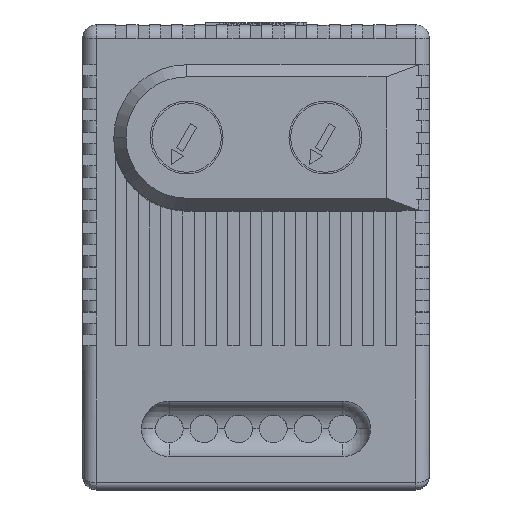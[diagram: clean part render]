
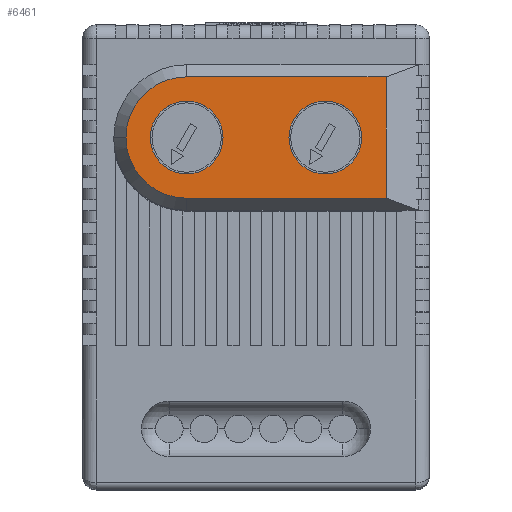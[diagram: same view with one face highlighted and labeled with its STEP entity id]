
A CAD part, top view. The second image highlights one B-rep face of the part: STEP entity #6461.
In plain terms, the highlighted planar face has unit normal (0, 0, 1).
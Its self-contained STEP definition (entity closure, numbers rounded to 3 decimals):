
#78 = CIRCLE ( 'NONE', #12965, 5.25 ) ;
#81 = VECTOR ( 'NONE', #315, 1000. ) ;
#84 = EDGE_LOOP ( 'NONE', ( #19183, #384, #13643, #3356, #12015 ) ) ;
#315 = DIRECTION ( 'NONE',  ( 1., 0., 0. ) ) ;
#384 = ORIENTED_EDGE ( 'NONE', *, *, #6448, .F. ) ;
#586 = FACE_OUTER_BOUND ( 'NONE', #84, .T. ) ;
#1139 = CARTESIAN_POINT ( 'NONE',  ( 43.75, 8.501, 42. ) ) ;
#1729 = PLANE ( 'NONE',  #17325 ) ;
#1800 = DIRECTION ( 'NONE',  ( 0., -1., 0. ) ) ;
#1929 = VECTOR ( 'NONE', #13264, 1000. ) ;
#2039 = EDGE_CURVE ( 'NONE', #3952, #13987, #5466, .T. ) ;
#2088 = EDGE_CURVE ( 'NONE', #6187, #5328, #8255, .T. ) ;
#2646 = EDGE_CURVE ( 'NONE', #11178, #7171, #10498, .T. ) ;
#3356 = ORIENTED_EDGE ( 'NONE', *, *, #2088, .T. ) ;
#3492 = DIRECTION ( 'NONE',  ( 0., 0., 1. ) ) ;
#3721 = VERTEX_POINT ( 'NONE', #19792 ) ;
#3952 = VERTEX_POINT ( 'NONE', #4141 ) ;
#4141 = CARTESIAN_POINT ( 'NONE',  ( 29.75, 17.25, 42. ) ) ;
#4200 = CIRCLE ( 'NONE', #17651, 8.749 ) ;
#4924 = CARTESIAN_POINT ( 'NONE',  ( 43.75, 27.75, 42. ) ) ;
#4990 = CARTESIAN_POINT ( 'NONE',  ( 15., 17.25, 42. ) ) ;
#5327 = CARTESIAN_POINT ( 'NONE',  ( 15., 25.999, 42. ) ) ;
#5328 = VERTEX_POINT ( 'NONE', #17575 ) ;
#5466 = CIRCLE ( 'NONE', #16173, 5.25 ) ;
#5499 = DIRECTION ( 'NONE',  ( 0., 0., 1. ) ) ;
#6187 = VERTEX_POINT ( 'NONE', #5327 ) ;
#6448 = EDGE_CURVE ( 'NONE', #6747, #20317, #12939, .T. ) ;
#6454 = EDGE_CURVE ( 'NONE', #13987, #3952, #78, .T. ) ;
#6461 = ADVANCED_FACE ( 'NONE', ( #8121, #12431, #586 ), #1729, .T. ) ;
#6530 = DIRECTION ( 'NONE',  ( 0., 0., 1. ) ) ;
#6606 = DIRECTION ( 'NONE',  ( 0., 0., 1. ) ) ;
#6747 = VERTEX_POINT ( 'NONE', #18588 ) ;
#6811 = CARTESIAN_POINT ( 'NONE',  ( 15., 25.999, 42. ) ) ;
#7171 = VERTEX_POINT ( 'NONE', #13450 ) ;
#7194 = ORIENTED_EDGE ( 'NONE', *, *, #6454, .F. ) ;
#8121 = FACE_BOUND ( 'NONE', #13847, .T. ) ;
#8125 = LINE ( 'NONE', #19664, #81 ) ;
#8214 = CARTESIAN_POINT ( 'NONE',  ( 15., 17.25, 42. ) ) ;
#8237 = DIRECTION ( 'NONE',  ( 0., 0., 1. ) ) ;
#8255 = CIRCLE ( 'NONE', #20525, 8.749 ) ;
#8321 = CARTESIAN_POINT ( 'NONE',  ( 15., 17.25, 42. ) ) ;
#8735 = EDGE_CURVE ( 'NONE', #5328, #3721, #4200, .T. ) ;
#8872 = EDGE_LOOP ( 'NONE', ( #13330, #10756 ) ) ;
#9487 = EDGE_CURVE ( 'NONE', #6747, #6187, #15297, .T. ) ;
#9833 = DIRECTION ( 'NONE',  ( 1., 0., 0. ) ) ;
#9937 = DIRECTION ( 'NONE',  ( 1., 0., 0. ) ) ;
#10498 = CIRCLE ( 'NONE', #16442, 5.25 ) ;
#10756 = ORIENTED_EDGE ( 'NONE', *, *, #2646, .F. ) ;
#11178 = VERTEX_POINT ( 'NONE', #18212 ) ;
#12015 = ORIENTED_EDGE ( 'NONE', *, *, #8735, .T. ) ;
#12431 = FACE_BOUND ( 'NONE', #8872, .T. ) ;
#12939 = LINE ( 'NONE', #4924, #16733 ) ;
#12965 = AXIS2_PLACEMENT_3D ( 'NONE', #16325, #6606, #17966 ) ;
#13182 = CARTESIAN_POINT ( 'NONE',  ( 15., 17.25, 42. ) ) ;
#13264 = DIRECTION ( 'NONE',  ( -1., 0., 0. ) ) ;
#13330 = ORIENTED_EDGE ( 'NONE', *, *, #20039, .F. ) ;
#13450 = CARTESIAN_POINT ( 'NONE',  ( 20.25, 17.25, 42. ) ) ;
#13643 = ORIENTED_EDGE ( 'NONE', *, *, #9487, .T. ) ;
#13847 = EDGE_LOOP ( 'NONE', ( #7194, #20081 ) ) ;
#13987 = VERTEX_POINT ( 'NONE', #17886 ) ;
#14802 = DIRECTION ( 'NONE',  ( 1., 0., 0. ) ) ;
#15198 = CARTESIAN_POINT ( 'NONE',  ( 15., 17.25, 42. ) ) ;
#15297 = LINE ( 'NONE', #6811, #1929 ) ;
#16173 = AXIS2_PLACEMENT_3D ( 'NONE', #16239, #6530, #17877 ) ;
#16239 = CARTESIAN_POINT ( 'NONE',  ( 35., 17.25, 42. ) ) ;
#16325 = CARTESIAN_POINT ( 'NONE',  ( 35., 17.25, 42. ) ) ;
#16442 = AXIS2_PLACEMENT_3D ( 'NONE', #15198, #5499, #16841 ) ;
#16733 = VECTOR ( 'NONE', #1800, 1000. ) ;
#16841 = DIRECTION ( 'NONE',  ( 1., 0., 0. ) ) ;
#17325 = AXIS2_PLACEMENT_3D ( 'NONE', #4990, #8237, #19589 ) ;
#17575 = CARTESIAN_POINT ( 'NONE',  ( 6.251, 17.25, 42. ) ) ;
#17651 = AXIS2_PLACEMENT_3D ( 'NONE', #8321, #19673, #9937 ) ;
#17877 = DIRECTION ( 'NONE',  ( 1., 0., 0. ) ) ;
#17886 = CARTESIAN_POINT ( 'NONE',  ( 40.25, 17.25, 42. ) ) ;
#17966 = DIRECTION ( 'NONE',  ( 1., 0., 0. ) ) ;
#18034 = EDGE_CURVE ( 'NONE', #3721, #20317, #8125, .T. ) ;
#18212 = CARTESIAN_POINT ( 'NONE',  ( 9.75, 17.25, 42. ) ) ;
#18379 = AXIS2_PLACEMENT_3D ( 'NONE', #8214, #19563, #9833 ) ;
#18588 = CARTESIAN_POINT ( 'NONE',  ( 43.75, 25.999, 42. ) ) ;
#19183 = ORIENTED_EDGE ( 'NONE', *, *, #18034, .T. ) ;
#19563 = DIRECTION ( 'NONE',  ( 0., 0., 1. ) ) ;
#19589 = DIRECTION ( 'NONE',  ( 1., 0., 0. ) ) ;
#19664 = CARTESIAN_POINT ( 'NONE',  ( 48., 8.501, 42. ) ) ;
#19673 = DIRECTION ( 'NONE',  ( 0., 0., 1. ) ) ;
#19792 = CARTESIAN_POINT ( 'NONE',  ( 15., 8.501, 42. ) ) ;
#19987 = CIRCLE ( 'NONE', #18379, 5.25 ) ;
#20039 = EDGE_CURVE ( 'NONE', #7171, #11178, #19987, .T. ) ;
#20081 = ORIENTED_EDGE ( 'NONE', *, *, #2039, .F. ) ;
#20317 = VERTEX_POINT ( 'NONE', #1139 ) ;
#20525 = AXIS2_PLACEMENT_3D ( 'NONE', #13182, #3492, #14802 ) ;
